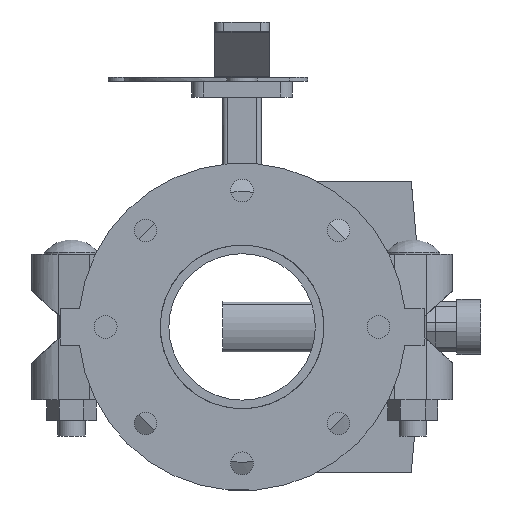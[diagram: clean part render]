
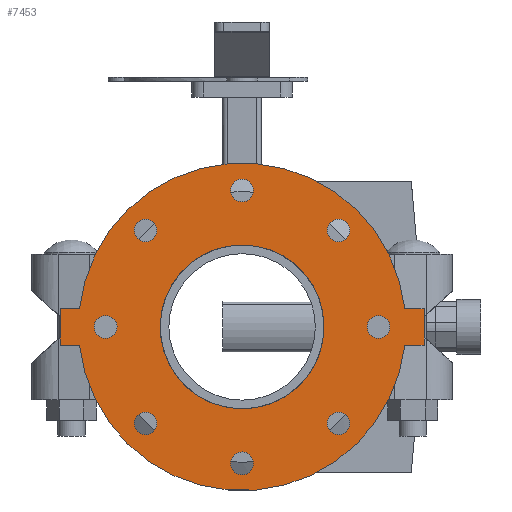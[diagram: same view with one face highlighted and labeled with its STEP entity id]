
A CAD part, front view. The second image highlights one B-rep face of the part: STEP entity #7453.
In plain terms, the highlighted planar face has unit normal (0, -1, 0) as drawn and (0, 0, -1) by its records, which use the part's own axes.
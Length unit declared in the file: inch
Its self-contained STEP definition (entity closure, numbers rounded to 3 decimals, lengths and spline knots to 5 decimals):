
#201=FACE_BOUND('',#950,.T.);
#202=FACE_BOUND('',#951,.T.);
#203=FACE_BOUND('',#952,.T.);
#204=FACE_BOUND('',#953,.T.);
#205=FACE_BOUND('',#954,.T.);
#206=FACE_BOUND('',#955,.T.);
#207=FACE_BOUND('',#956,.T.);
#208=FACE_BOUND('',#957,.T.);
#209=FACE_BOUND('',#958,.T.);
#299=PLANE('',#8085);
#540=FACE_OUTER_BOUND('',#949,.T.);
#949=EDGE_LOOP('',(#4795,#4796,#4797,#4798,#4799,#4800,#4801,#4802));
#950=EDGE_LOOP('',(#4803));
#951=EDGE_LOOP('',(#4804));
#952=EDGE_LOOP('',(#4805));
#953=EDGE_LOOP('',(#4806));
#954=EDGE_LOOP('',(#4807));
#955=EDGE_LOOP('',(#4808));
#956=EDGE_LOOP('',(#4809));
#957=EDGE_LOOP('',(#4810));
#958=EDGE_LOOP('',(#4811,#4812));
#1456=LINE('',#11362,#2013);
#1457=LINE('',#11364,#2014);
#1458=LINE('',#11366,#2015);
#1459=LINE('',#11370,#2016);
#1460=LINE('',#11372,#2017);
#1461=LINE('',#11373,#2018);
#2013=VECTOR('',#9020,0.3937);
#2014=VECTOR('',#9021,0.3937);
#2015=VECTOR('',#9022,0.3937);
#2016=VECTOR('',#9025,0.3937);
#2017=VECTOR('',#9026,0.3937);
#2018=VECTOR('',#9027,0.3937);
#2563=CIRCLE('',#8063,0.3125);
#2565=CIRCLE('',#8066,0.3125);
#2567=CIRCLE('',#8069,0.3125);
#2569=CIRCLE('',#8072,0.3125);
#2571=CIRCLE('',#8075,0.3125);
#2573=CIRCLE('',#8078,0.3125);
#2575=CIRCLE('',#8081,0.3125);
#2577=CIRCLE('',#8084,0.3125);
#2578=CIRCLE('',#8086,4.5);
#2579=CIRCLE('',#8087,4.5);
#2580=CIRCLE('',#8088,2.25);
#2581=CIRCLE('',#8089,2.25);
#2995=VERTEX_POINT('',#11312);
#2997=VERTEX_POINT('',#11318);
#2999=VERTEX_POINT('',#11324);
#3001=VERTEX_POINT('',#11330);
#3003=VERTEX_POINT('',#11336);
#3005=VERTEX_POINT('',#11342);
#3007=VERTEX_POINT('',#11348);
#3009=VERTEX_POINT('',#11354);
#3010=VERTEX_POINT('',#11358);
#3011=VERTEX_POINT('',#11359);
#3012=VERTEX_POINT('',#11361);
#3013=VERTEX_POINT('',#11363);
#3014=VERTEX_POINT('',#11365);
#3015=VERTEX_POINT('',#11367);
#3016=VERTEX_POINT('',#11369);
#3017=VERTEX_POINT('',#11371);
#3018=VERTEX_POINT('',#11374);
#3019=VERTEX_POINT('',#11375);
#3708=EDGE_CURVE('',#2995,#2995,#2563,.T.);
#3711=EDGE_CURVE('',#2997,#2997,#2565,.T.);
#3714=EDGE_CURVE('',#2999,#2999,#2567,.T.);
#3717=EDGE_CURVE('',#3001,#3001,#2569,.T.);
#3720=EDGE_CURVE('',#3003,#3003,#2571,.T.);
#3723=EDGE_CURVE('',#3005,#3005,#2573,.T.);
#3726=EDGE_CURVE('',#3007,#3007,#2575,.T.);
#3729=EDGE_CURVE('',#3009,#3009,#2577,.T.);
#3730=EDGE_CURVE('',#3010,#3011,#2578,.T.);
#3731=EDGE_CURVE('',#3011,#3012,#1456,.T.);
#3732=EDGE_CURVE('',#3012,#3013,#1457,.T.);
#3733=EDGE_CURVE('',#3013,#3014,#1458,.T.);
#3734=EDGE_CURVE('',#3014,#3015,#2579,.T.);
#3735=EDGE_CURVE('',#3015,#3016,#1459,.T.);
#3736=EDGE_CURVE('',#3016,#3017,#1460,.T.);
#3737=EDGE_CURVE('',#3017,#3010,#1461,.T.);
#3738=EDGE_CURVE('',#3018,#3019,#2580,.T.);
#3739=EDGE_CURVE('',#3019,#3018,#2581,.T.);
#4795=ORIENTED_EDGE('',*,*,#3730,.T.);
#4796=ORIENTED_EDGE('',*,*,#3731,.T.);
#4797=ORIENTED_EDGE('',*,*,#3732,.T.);
#4798=ORIENTED_EDGE('',*,*,#3733,.T.);
#4799=ORIENTED_EDGE('',*,*,#3734,.T.);
#4800=ORIENTED_EDGE('',*,*,#3735,.T.);
#4801=ORIENTED_EDGE('',*,*,#3736,.T.);
#4802=ORIENTED_EDGE('',*,*,#3737,.T.);
#4803=ORIENTED_EDGE('',*,*,#3708,.T.);
#4804=ORIENTED_EDGE('',*,*,#3711,.T.);
#4805=ORIENTED_EDGE('',*,*,#3714,.T.);
#4806=ORIENTED_EDGE('',*,*,#3717,.T.);
#4807=ORIENTED_EDGE('',*,*,#3720,.T.);
#4808=ORIENTED_EDGE('',*,*,#3723,.T.);
#4809=ORIENTED_EDGE('',*,*,#3726,.T.);
#4810=ORIENTED_EDGE('',*,*,#3729,.T.);
#4811=ORIENTED_EDGE('',*,*,#3738,.T.);
#4812=ORIENTED_EDGE('',*,*,#3739,.T.);
#7453=ADVANCED_FACE('',(#540,#201,#202,#203,#204,#205,#206,#207,#208,#209),
#299,.T.);
#8063=AXIS2_PLACEMENT_3D('',#11314,#8965,#8966);
#8066=AXIS2_PLACEMENT_3D('',#11320,#8972,#8973);
#8069=AXIS2_PLACEMENT_3D('',#11326,#8979,#8980);
#8072=AXIS2_PLACEMENT_3D('',#11332,#8986,#8987);
#8075=AXIS2_PLACEMENT_3D('',#11338,#8993,#8994);
#8078=AXIS2_PLACEMENT_3D('',#11344,#9000,#9001);
#8081=AXIS2_PLACEMENT_3D('',#11350,#9007,#9008);
#8084=AXIS2_PLACEMENT_3D('',#11356,#9014,#9015);
#8085=AXIS2_PLACEMENT_3D('',#11357,#9016,#9017);
#8086=AXIS2_PLACEMENT_3D('',#11360,#9018,#9019);
#8087=AXIS2_PLACEMENT_3D('',#11368,#9023,#9024);
#8088=AXIS2_PLACEMENT_3D('',#11376,#9028,#9029);
#8089=AXIS2_PLACEMENT_3D('',#11377,#9030,#9031);
#8965=DIRECTION('center_axis',(0.,0.,1.));
#8966=DIRECTION('ref_axis',(-0.707,0.707,0.));
#8972=DIRECTION('center_axis',(0.,0.,1.));
#8973=DIRECTION('ref_axis',(0.,1.,0.));
#8979=DIRECTION('center_axis',(0.,0.,1.));
#8980=DIRECTION('ref_axis',(0.707,0.707,0.));
#8986=DIRECTION('center_axis',(0.,0.,1.));
#8987=DIRECTION('ref_axis',(1.,0.,0.));
#8993=DIRECTION('center_axis',(0.,0.,1.));
#8994=DIRECTION('ref_axis',(0.707,-0.707,0.));
#9000=DIRECTION('center_axis',(0.,0.,1.));
#9001=DIRECTION('ref_axis',(0.,-1.,0.));
#9007=DIRECTION('center_axis',(0.,0.,1.));
#9008=DIRECTION('ref_axis',(-0.707,-0.707,0.));
#9014=DIRECTION('center_axis',(0.,0.,1.));
#9015=DIRECTION('ref_axis',(-1.,0.,0.));
#9016=DIRECTION('center_axis',(0.,0.,-1.));
#9017=DIRECTION('ref_axis',(-1.,0.,0.));
#9018=DIRECTION('center_axis',(0.,0.,-1.));
#9019=DIRECTION('ref_axis',(-1.,0.,0.));
#9020=DIRECTION('',(0.,1.,0.));
#9021=DIRECTION('',(1.,0.,0.));
#9022=DIRECTION('',(0.,-1.,0.));
#9023=DIRECTION('center_axis',(0.,0.,-1.));
#9024=DIRECTION('ref_axis',(-1.,0.,0.));
#9025=DIRECTION('',(0.,-1.,0.));
#9026=DIRECTION('',(-1.,0.,0.));
#9027=DIRECTION('',(0.,1.,0.));
#9028=DIRECTION('center_axis',(0.,0.,1.));
#9029=DIRECTION('ref_axis',(-1.,0.,0.));
#9030=DIRECTION('center_axis',(0.,0.,1.));
#9031=DIRECTION('ref_axis',(-1.,0.,0.));
#11312=CARTESIAN_POINT('',(-2.43068,2.43068,-0.5));
#11314=CARTESIAN_POINT('Origin',(-2.65165,2.65165,-0.5));
#11318=CARTESIAN_POINT('',(0.,3.4375,-0.5));
#11320=CARTESIAN_POINT('Origin',(0.,3.75,-0.5));
#11324=CARTESIAN_POINT('',(2.43068,2.43068,-0.5));
#11326=CARTESIAN_POINT('Origin',(2.65165,2.65165,-0.5));
#11330=CARTESIAN_POINT('',(3.4375,0.,-0.5));
#11332=CARTESIAN_POINT('Origin',(3.75,0.,-0.5));
#11336=CARTESIAN_POINT('',(2.43068,-2.43068,-0.5));
#11338=CARTESIAN_POINT('Origin',(2.65165,-2.65165,-0.5));
#11342=CARTESIAN_POINT('',(0.,-3.4375,-0.5));
#11344=CARTESIAN_POINT('Origin',(0.,-3.75,-0.5));
#11348=CARTESIAN_POINT('',(-2.43068,-2.43068,-0.5));
#11350=CARTESIAN_POINT('Origin',(-2.65165,-2.65165,-0.5));
#11354=CARTESIAN_POINT('',(-3.4375,0.,-0.5));
#11356=CARTESIAN_POINT('Origin',(-3.75,0.,-0.5));
#11357=CARTESIAN_POINT('Origin',(0.,0.,-0.5));
#11358=CARTESIAN_POINT('',(-0.5,-4.47214,-0.5));
#11359=CARTESIAN_POINT('',(-0.5,4.47214,-0.5));
#11360=CARTESIAN_POINT('Origin',(0.,0.,-0.5));
#11361=CARTESIAN_POINT('',(-0.5,5.,-0.5));
#11362=CARTESIAN_POINT('',(-0.5,-5.,-0.5));
#11363=CARTESIAN_POINT('',(0.5,5.,-0.5));
#11364=CARTESIAN_POINT('',(-0.5,5.,-0.5));
#11365=CARTESIAN_POINT('',(0.5,4.47214,-0.5));
#11366=CARTESIAN_POINT('',(0.5,5.,-0.5));
#11367=CARTESIAN_POINT('',(0.5,-4.47214,-0.5));
#11368=CARTESIAN_POINT('Origin',(0.,0.,-0.5));
#11369=CARTESIAN_POINT('',(0.5,-5.,-0.5));
#11370=CARTESIAN_POINT('',(0.5,5.,-0.5));
#11371=CARTESIAN_POINT('',(-0.5,-5.,-0.5));
#11372=CARTESIAN_POINT('',(0.5,-5.,-0.5));
#11373=CARTESIAN_POINT('',(-0.5,-5.,-0.5));
#11374=CARTESIAN_POINT('',(0.5,2.19374,-0.5));
#11375=CARTESIAN_POINT('',(2.25,0.,-0.5));
#11376=CARTESIAN_POINT('Origin',(0.,0.,-0.5));
#11377=CARTESIAN_POINT('Origin',(0.,0.,-0.5));
